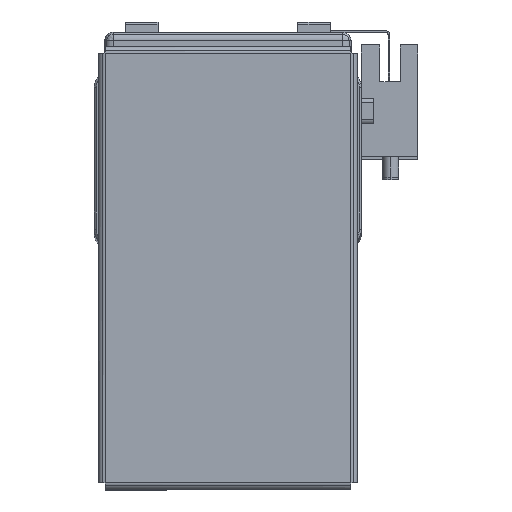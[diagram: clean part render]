
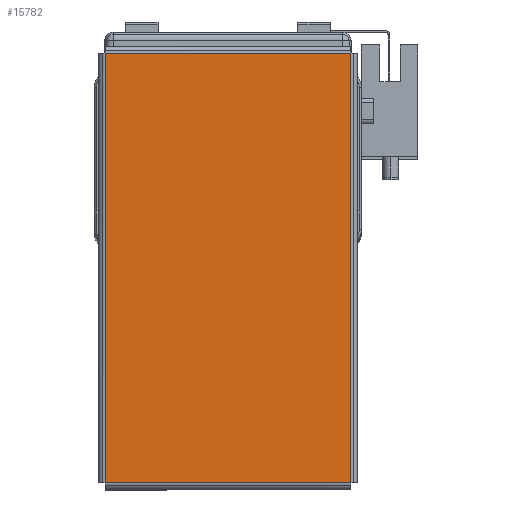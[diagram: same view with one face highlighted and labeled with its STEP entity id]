
A CAD part, top view. The second image highlights one B-rep face of the part: STEP entity #15782.
In plain terms, the highlighted planar face has unit normal (0, 0, 1) as drawn and (0, -1, 0) by its records, which use the part's own axes.
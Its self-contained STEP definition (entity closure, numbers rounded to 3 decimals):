
#1042 = EDGE_CURVE ( 'NONE', #4479, #4371, #21514, .T. ) ;
#1046 = EDGE_CURVE ( 'NONE', #4410, #4479, #21538, .T. ) ;
#1083 = EDGE_CURVE ( 'NONE', #4481, #4410, #21569, .T. ) ;
#1099 = EDGE_CURVE ( 'NONE', #4371, #4481, #21585, .T. ) ;
#2648 = CARTESIAN_POINT ( 'NONE',  ( 0., -1., 0. ) ) ;
#2670 = DIRECTION ( 'NONE',  ( 0., 0., 1. ) ) ;
#2674 = PLANE ( 'NONE',  #3468 ) ;
#2684 = DIRECTION ( 'NONE',  ( 0., 1., 0. ) ) ;
#3468 = AXIS2_PLACEMENT_3D ( 'NONE', #2648, #2684, #2670 ) ;
#4371 = VERTEX_POINT ( 'NONE', #26608 ) ;
#4410 = VERTEX_POINT ( 'NONE', #26651 ) ;
#4479 = VERTEX_POINT ( 'NONE', #26713 ) ;
#4481 = VERTEX_POINT ( 'NONE', #26750 ) ;
#5136 = FACE_OUTER_BOUND ( 'NONE', #11518, .T. ) ;
#11518 = EDGE_LOOP ( 'NONE', ( #12410, #12451, #12435, #12417 ) ) ;
#12410 = ORIENTED_EDGE ( 'NONE', *, *, #1042, .T. ) ;
#12417 = ORIENTED_EDGE ( 'NONE', *, *, #1046, .T. ) ;
#12435 = ORIENTED_EDGE ( 'NONE', *, *, #1083, .T. ) ;
#12451 = ORIENTED_EDGE ( 'NONE', *, *, #1099, .T. ) ;
#15782 = ADVANCED_FACE ( 'NONE', ( #5136 ), #2674, .F. ) ;
#21499 = VECTOR ( 'NONE', #22684, 1000. ) ;
#21509 = VECTOR ( 'NONE', #22743, 1000. ) ;
#21514 = LINE ( 'NONE', #22698, #21499 ) ;
#21538 = LINE ( 'NONE', #22756, #21509 ) ;
#21552 = VECTOR ( 'NONE', #22863, 1000. ) ;
#21569 = LINE ( 'NONE', #22822, #21584 ) ;
#21584 = VECTOR ( 'NONE', #22845, 1000. ) ;
#21585 = LINE ( 'NONE', #22897, #21552 ) ;
#22684 = DIRECTION ( 'NONE',  ( -1., 0., 0. ) ) ;
#22698 = CARTESIAN_POINT ( 'NONE',  ( 52.293, -1., 29.863 ) ) ;
#22743 = DIRECTION ( 'NONE',  ( 0., 0., 1. ) ) ;
#22756 = CARTESIAN_POINT ( 'NONE',  ( 52.263, -1., -29.893 ) ) ;
#22822 = CARTESIAN_POINT ( 'NONE',  ( -52.293, -1., -29.863 ) ) ;
#22845 = DIRECTION ( 'NONE',  ( 1., 0., 0. ) ) ;
#22863 = DIRECTION ( 'NONE',  ( 0., 0., -1. ) ) ;
#22897 = CARTESIAN_POINT ( 'NONE',  ( -52.263, -1., 29.893 ) ) ;
#26608 = CARTESIAN_POINT ( 'NONE',  ( -52.263, -1., 29.863 ) ) ;
#26651 = CARTESIAN_POINT ( 'NONE',  ( 52.263, -1., -29.863 ) ) ;
#26713 = CARTESIAN_POINT ( 'NONE',  ( 52.263, -1., 29.863 ) ) ;
#26750 = CARTESIAN_POINT ( 'NONE',  ( -52.263, -1., -29.863 ) ) ;
